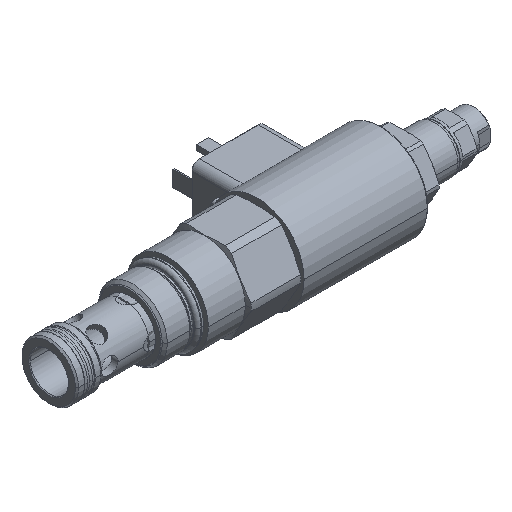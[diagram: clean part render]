
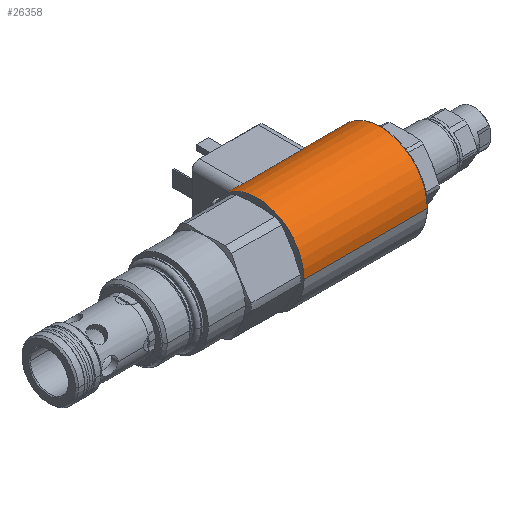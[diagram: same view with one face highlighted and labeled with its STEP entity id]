
A CAD part, isometric view. The second image highlights one B-rep face of the part: STEP entity #26358.
In plain terms, the highlighted cylindrical face has radius 18.5 mm (diameter 37 mm), a partial arc.
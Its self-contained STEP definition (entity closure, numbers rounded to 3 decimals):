
#23727=CARTESIAN_POINT('',(0.,0.,0.));
#23728=DIRECTION('',(1.,0.,0.));
#23729=DIRECTION('',(0.,1.,0.));
#23730=AXIS2_PLACEMENT_3D('',#23727,#23728,#23729);
#23766=DIRECTION('',(-1.,0.,0.));
#23767=VECTOR('',#23766,0.5);
#23768=CARTESIAN_POINT('',(0.5,18.5,0.));
#23769=LINE('',#23768,#23767);
#23773=DIRECTION('',(-1.,0.,0.));
#23774=VECTOR('',#23773,48.368);
#23775=CARTESIAN_POINT('',(48.368,-18.5,0.));
#23776=LINE('',#23775,#23774);
#23788=DIRECTION('',(-1.,0.,0.));
#23789=VECTOR('',#23788,16.368);
#23790=CARTESIAN_POINT('',(48.368,18.5,0.));
#23791=LINE('',#23790,#23789);
#23957=CARTESIAN_POINT('',(1.5,16.608,8.15));
#23958=CARTESIAN_POINT('',(1.468,16.608,8.15));
#23959=CARTESIAN_POINT('',(1.402,16.61,8.147));
#23960=CARTESIAN_POINT('',(1.304,16.617,8.132));
#23961=CARTESIAN_POINT('',(1.206,16.629,8.108));
#23962=CARTESIAN_POINT('',(1.112,16.645,8.074));
#23963=CARTESIAN_POINT('',(1.021,16.666,8.03));
#23964=CARTESIAN_POINT('',(0.933,16.692,
7.976));
#23965=CARTESIAN_POINT('',(0.851,16.722,
7.913));
#23966=CARTESIAN_POINT('',(0.775,16.756,
7.841));
#23967=CARTESIAN_POINT('',(0.705,16.794,
7.76));
#23968=CARTESIAN_POINT('',(0.644,16.835,
7.671));
#23969=CARTESIAN_POINT('',(0.593,16.878,
7.575));
#23970=CARTESIAN_POINT('',(0.552,16.923,
7.475));
#23971=CARTESIAN_POINT('',(0.522,16.969,
7.369));
#23972=CARTESIAN_POINT('',(0.504,17.016,
7.26));
#23973=CARTESIAN_POINT('',(0.5,17.047,7.187));
#23974=CARTESIAN_POINT('',(0.5,17.062,7.15));
#24662=CARTESIAN_POINT('',(0.5,0.,0.));
#24663=DIRECTION('',(1.,0.,0.));
#24664=DIRECTION('',(0.,1.,0.));
#24665=AXIS2_PLACEMENT_3D('',#24662,#24663,#24664);
#24670=DIRECTION('',(1.,0.,0.));
#24671=VECTOR('',#24670,1.5);
#24672=CARTESIAN_POINT('',(1.5,16.608,8.15));
#24673=LINE('',#24672,#24671);
#24677=CARTESIAN_POINT('',(3.,0.,0.));
#24678=DIRECTION('',(1.,0.,0.));
#24679=DIRECTION('',(0.,0.898,0.441));
#24680=AXIS2_PLACEMENT_3D('',#24677,#24678,#24679);
#24685=CARTESIAN_POINT('',(3.,14.491,11.5));
#24686=CARTESIAN_POINT('',(3.,14.417,11.594));
#24687=CARTESIAN_POINT('',(3.009,14.263,11.784));
#24688=CARTESIAN_POINT('',(3.051,14.016,12.077));
#24689=CARTESIAN_POINT('',(3.122,13.762,12.366));
#24690=CARTESIAN_POINT('',(3.223,13.504,12.647));
#24691=CARTESIAN_POINT('',(3.35,13.247,12.916));
#24692=CARTESIAN_POINT('',(3.5,12.997,13.167));
#24693=CARTESIAN_POINT('',(3.669,12.761,13.396));
#24694=CARTESIAN_POINT('',(3.854,12.54,13.602));
#24695=CARTESIAN_POINT('',(4.05,12.339,13.785));
#24696=CARTESIAN_POINT('',(4.252,12.16,13.943));
#24697=CARTESIAN_POINT('',(4.458,12.004,14.077));
#24698=CARTESIAN_POINT('',(4.662,11.872,14.188));
#24699=CARTESIAN_POINT('',(4.863,11.763,14.279));
#24700=CARTESIAN_POINT('',(5.06,11.674,14.352));
#24701=CARTESIAN_POINT('',(5.254,11.604,14.408));
#24702=CARTESIAN_POINT('',(5.444,11.552,14.45));
#24703=CARTESIAN_POINT('',(5.63,11.515,14.479));
#24704=CARTESIAN_POINT('',(5.816,11.494,14.496));
#24705=CARTESIAN_POINT('',(5.939,11.489,14.5));
#24706=CARTESIAN_POINT('',(6.,11.489,14.5));
#24711=DIRECTION('',(1.,0.,0.));
#24712=VECTOR('',#24711,23.);
#24713=CARTESIAN_POINT('',(6.,11.489,14.5));
#24714=LINE('',#24713,#24712);
#24718=CARTESIAN_POINT('',(29.,11.489,14.5));
#24719=CARTESIAN_POINT('',(29.061,11.489,14.5));
#24720=CARTESIAN_POINT('',(29.184,11.494,14.496));
#24721=CARTESIAN_POINT('',(29.37,11.515,14.479));
#24722=CARTESIAN_POINT('',(29.556,11.552,14.45));
#24723=CARTESIAN_POINT('',(29.746,11.604,14.408));
#24724=CARTESIAN_POINT('',(29.94,11.674,14.352));
#24725=CARTESIAN_POINT('',(30.137,11.763,14.279));
#24726=CARTESIAN_POINT('',(30.338,11.872,14.188));
#24727=CARTESIAN_POINT('',(30.542,12.004,14.077));
#24728=CARTESIAN_POINT('',(30.748,12.16,13.943));
#24729=CARTESIAN_POINT('',(30.95,12.339,13.785));
#24730=CARTESIAN_POINT('',(31.146,12.54,13.602));
#24731=CARTESIAN_POINT('',(31.331,12.761,13.395));
#24732=CARTESIAN_POINT('',(31.5,12.997,13.167));
#24733=CARTESIAN_POINT('',(31.65,13.247,12.916));
#24734=CARTESIAN_POINT('',(31.777,13.504,12.647));
#24735=CARTESIAN_POINT('',(31.878,13.762,12.366));
#24736=CARTESIAN_POINT('',(31.949,14.016,12.077));
#24737=CARTESIAN_POINT('',(31.991,14.263,11.784));
#24738=CARTESIAN_POINT('',(32.,14.417,11.594));
#24739=CARTESIAN_POINT('',(32.,14.491,11.5));
#24744=CARTESIAN_POINT('',(32.,0.,0.));
#24745=DIRECTION('',(1.,0.,0.));
#24746=DIRECTION('',(0.,1.,0.));
#24747=AXIS2_PLACEMENT_3D('',#24744,#24745,#24746);
#24752=CARTESIAN_POINT('',(48.368,0.,0.));
#24753=DIRECTION('',(1.,0.,0.));
#24754=DIRECTION('',(0.,1.,0.));
#24755=AXIS2_PLACEMENT_3D('',#24752,#24753,#24754);
#24994=CARTESIAN_POINT('',(48.368,-18.5,0.));
#24995=CARTESIAN_POINT('',(0.,-18.5,0.));
#24996=VERTEX_POINT('',#24994);
#24997=VERTEX_POINT('',#24995);
#24998=CARTESIAN_POINT('',(6.,11.489,14.5));
#24999=CARTESIAN_POINT('',(29.,11.489,14.5));
#25000=VERTEX_POINT('',#24998);
#25001=VERTEX_POINT('',#24999);
#25002=VERTEX_POINT('',#24739);
#25003=CARTESIAN_POINT('',(32.,18.5,0.));
#25004=VERTEX_POINT('',#25003);
#25005=VERTEX_POINT('',#24685);
#25012=CARTESIAN_POINT('',(48.368,18.5,0.));
#25013=VERTEX_POINT('',#25012);
#25094=CARTESIAN_POINT('',(0.,18.5,0.));
#25095=VERTEX_POINT('',#25094);
#25148=CARTESIAN_POINT('',(3.,16.608,8.15));
#25149=VERTEX_POINT('',#25148);
#25152=CARTESIAN_POINT('',(1.5,16.608,8.15));
#25153=VERTEX_POINT('',#25152);
#25154=CARTESIAN_POINT('',(0.5,17.062,7.15));
#25155=VERTEX_POINT('',#25154);
#25163=CARTESIAN_POINT('',(0.5,18.5,0.));
#25164=VERTEX_POINT('',#25163);
#26333=CARTESIAN_POINT('',(-2.47,0.,0.));
#26334=DIRECTION('',(1.,0.,0.));
#26335=DIRECTION('',(0.,-1.,0.));
#26336=AXIS2_PLACEMENT_3D('',#26333,#26334,#26335);
#26337=CYLINDRICAL_SURFACE('',#26336,18.5);
#26339=ORIENTED_EDGE('',*,*,#26338,.T.);
#26340=ORIENTED_EDGE('',*,*,#25345,.F.);
#26341=ORIENTED_EDGE('',*,*,#25373,.T.);
#26342=ORIENTED_EDGE('',*,*,#25399,.T.);
#26344=ORIENTED_EDGE('',*,*,#26343,.T.);
#26346=ORIENTED_EDGE('',*,*,#26345,.T.);
#26348=ORIENTED_EDGE('',*,*,#26347,.T.);
#26349=ORIENTED_EDGE('',*,*,#26314,.F.);
#26350=ORIENTED_EDGE('',*,*,#25232,.F.);
#26352=ORIENTED_EDGE('',*,*,#26351,.T.);
#26353=ORIENTED_EDGE('',*,*,#25228,.T.);
#26354=ORIENTED_EDGE('',*,*,#25196,.F.);
#26355=ORIENTED_EDGE('',*,*,#25225,.F.);
#26356=EDGE_LOOP('',(#26339,#26340,#26341,#26342,#26344,#26346,#26348,#26349,
#26350,#26352,#26353,#26354,#26355));
#26357=FACE_OUTER_BOUND('',#26356,.F.);
#23731=CIRCLE('',#23730,18.5);
#23975=B_SPLINE_CURVE_WITH_KNOTS('',3,(#23957,#23958,#23959,#23960,#23961,
#23962,#23963,#23964,#23965,#23966,#23967,#23968,#23969,#23970,#23971,#23972,
#23973,#23974),.UNSPECIFIED.,.F.,.F.,(4,1,1,1,1,1,1,1,1,1,1,1,1,1,1,4),(0.,
0.067,0.133,0.2,0.267,0.333,
0.4,0.467,0.533,0.6,0.667,
0.733,0.8,0.867,0.933,1.),
.UNSPECIFIED.);
#24666=CIRCLE('',#24665,18.5);
#24681=CIRCLE('',#24680,18.5);
#24707=B_SPLINE_CURVE_WITH_KNOTS('',3,(#24685,#24686,#24687,#24688,#24689,
#24690,#24691,#24692,#24693,#24694,#24695,#24696,#24697,#24698,#24699,#24700,
#24701,#24702,#24703,#24704,#24705,#24706),.UNSPECIFIED.,.F.,.F.,(4,1,1,1,1,1,1,
1,1,1,1,1,1,1,1,1,1,1,1,4),(0.,0.053,0.105,
0.158,0.211,0.263,0.316,
0.368,0.421,0.474,0.526,
0.579,0.632,0.684,0.737,
0.789,0.842,0.895,0.947,1.),
.UNSPECIFIED.);
#24740=B_SPLINE_CURVE_WITH_KNOTS('',3,(#24718,#24719,#24720,#24721,#24722,
#24723,#24724,#24725,#24726,#24727,#24728,#24729,#24730,#24731,#24732,#24733,
#24734,#24735,#24736,#24737,#24738,#24739),.UNSPECIFIED.,.F.,.F.,(4,1,1,1,1,1,1,
1,1,1,1,1,1,1,1,1,1,1,1,4),(0.,0.053,0.105,
0.158,0.211,0.263,0.316,
0.368,0.421,0.474,0.526,
0.579,0.632,0.684,0.737,
0.789,0.842,0.895,0.947,1.),
.UNSPECIFIED.);
#24748=CIRCLE('',#24747,18.5);
#24756=CIRCLE('',#24755,18.5);
#25196=EDGE_CURVE('',#25095,#24997,#23731,.T.);
#25225=EDGE_CURVE('',#25164,#25095,#23769,.T.);
#25228=EDGE_CURVE('',#24996,#24997,#23776,.T.);
#25232=EDGE_CURVE('',#25013,#25004,#23791,.T.);
#25345=EDGE_CURVE('',#25153,#25155,#23975,.T.);
#25373=EDGE_CURVE('',#25153,#25149,#24673,.T.);
#25399=EDGE_CURVE('',#25149,#25005,#24681,.T.);
#26314=EDGE_CURVE('',#25004,#25002,#24748,.T.);
#26338=EDGE_CURVE('',#25164,#25155,#24666,.T.);
#26343=EDGE_CURVE('',#25005,#25000,#24707,.T.);
#26345=EDGE_CURVE('',#25000,#25001,#24714,.T.);
#26347=EDGE_CURVE('',#25001,#25002,#24740,.T.);
#26351=EDGE_CURVE('',#25013,#24996,#24756,.T.);
#26358=ADVANCED_FACE('',(#26357),#26337,.T.);
